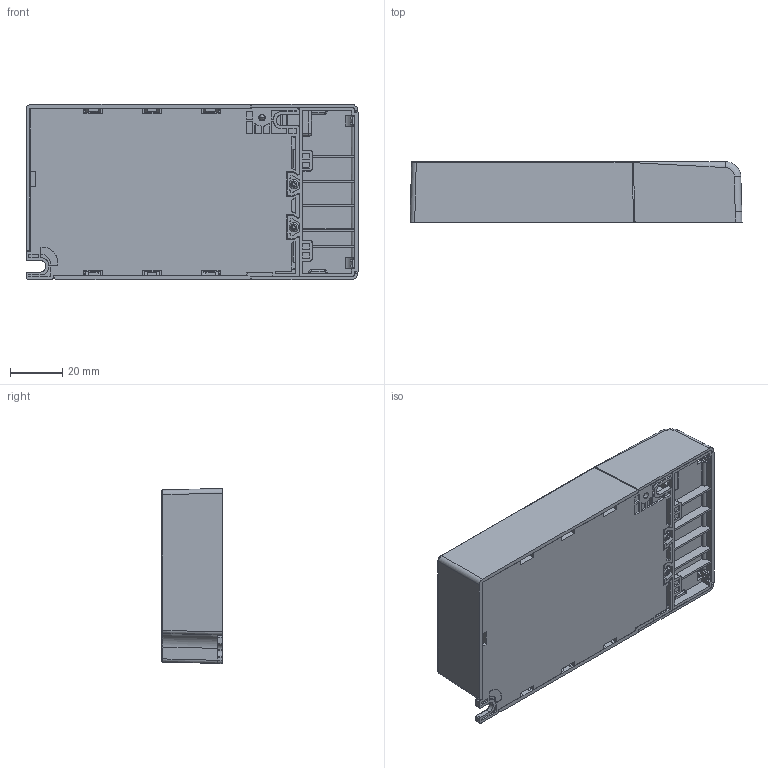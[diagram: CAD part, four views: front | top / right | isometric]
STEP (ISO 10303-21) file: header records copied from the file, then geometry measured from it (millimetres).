
FILE_DESCRIPTION (( 'STEP AP214' ), '1' );
FILE_NAME ('LDL25成品圖(10) 107,05,07安規修模.STEP', '2018-12-18T06:35:37', ( '' ), ( '' ), 'SwSTEP 2.0', 'SolidWorks 2017', '' );
FILE_SCHEMA (( 'AUTOMOTIVE_DESIGN' ));
Length unit declared in the file: millimetre
Products named in the file (18): TP3x12N 自攻牙螺絲(M-B020-00-S)G75A1300472示意圖; LDL25 PCB-1070328; LDL25 下蓋(M-F033-01-M)G56A0007201-1070522; LDL25 PCB示意圖(KZ7 6P,KZ7D 2P) 107,03,28; BNGHG端子台KZ7D-2P 示意圖 106,07,12; LDL25成品圖(10) 107,05,07安規修模; ST2P 2x5N 自攻牙螺絲 示意圖 106,12,01 割尾; LDL25 側下蓋(M-F035-01-M)G56A0009201-1070525; LDL25 Bobbin,Core 106,03,09; (有孔)LDL25 側上蓋(M-F034-01-M)G56A0008201-1070522; BNGHG端子台KZ7-4P 示意圖 106,01,18; LDL25 上蓋(M-F032-00-M)G56A0006201; LDL25 Bobbin(M-F037-00-M)G410A610009; LDL20 Core 示意圖 105,11,08; 鏡射LDL20 Core 示意圖 105,11,08; LDL40 扣件(M-F031-00-M)G56A0005201; BNGHG端子台KZ7-2P 示意圖 橘橘 106,01,13; LDL25 PCB示意圖(KZ7 6P,KZ7D 2P) 107,02,09
Assembly tree (18 placements, depth 4):
  LDL25成品圖(10) 107,05,07安規修模
    LDL25 上蓋(M-F032-00-M)G56A0006201
    LDL25 下蓋(M-F033-01-M)G56A0007201-1070522
    LDL25 側下蓋(M-F035-01-M)G56A0009201-1070525
    (有孔)LDL25 側上蓋(M-F034-01-M)G56A0008201-1070522
    LDL40 扣件(M-F031-00-M)G56A0005201
    LDL25 PCB示意圖(KZ7 6P,KZ7D 2P) 107,03,28
      LDL25 PCB示意圖(KZ7 6P,KZ7D 2P) 107,02,09
      BNGHG端子台KZ7-4P 示意圖 106,01,18
      BNGHG端子台KZ7-2P 示意圖 橘橘 106,01,13
      LDL25 Bobbin,Core 106,03,09
        LDL20 Core 示意圖 105,11,08
        LDL25 Bobbin(M-F037-00-M)G410A610009
        鏡射LDL20 Core 示意圖 105,11,08
      BNGHG端子台KZ7D-2P 示意圖 106,07,12
      LDL25 PCB-1070328
    TP3x12N 自攻牙螺絲(M-B020-00-S)G75A1300472示意圖
    ST2P 2x5N 自攻牙螺絲 示意圖 106,12,01 割尾  x2
Bounding box: 127 x 23.2 x 67 mm (x, y, z)
Volume: 65245.1 mm3; surface area: 101287.9 mm2
Topology: 40 solids, 40 shells, 3505 faces, 9587 edges, 6263 vertices
Faces by surface type: plane 2260, cylinder 930, bspline 202, torus 48, cone 39, sphere 26
Entity records: 121873 total; most frequent: CARTESIAN_POINT 36691, ORIENTED_EDGE 18814, DIRECTION 15648, EDGE_CURVE 9407, LINE 6858, VECTOR 6858, VERTEX_POINT 6163, AXIS2_PLACEMENT_3D 4395
